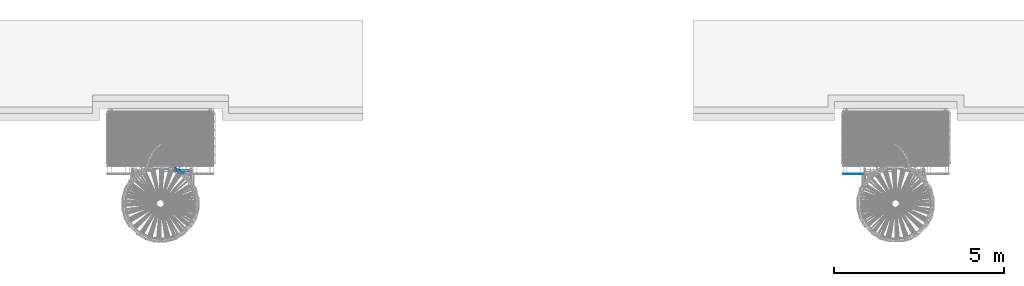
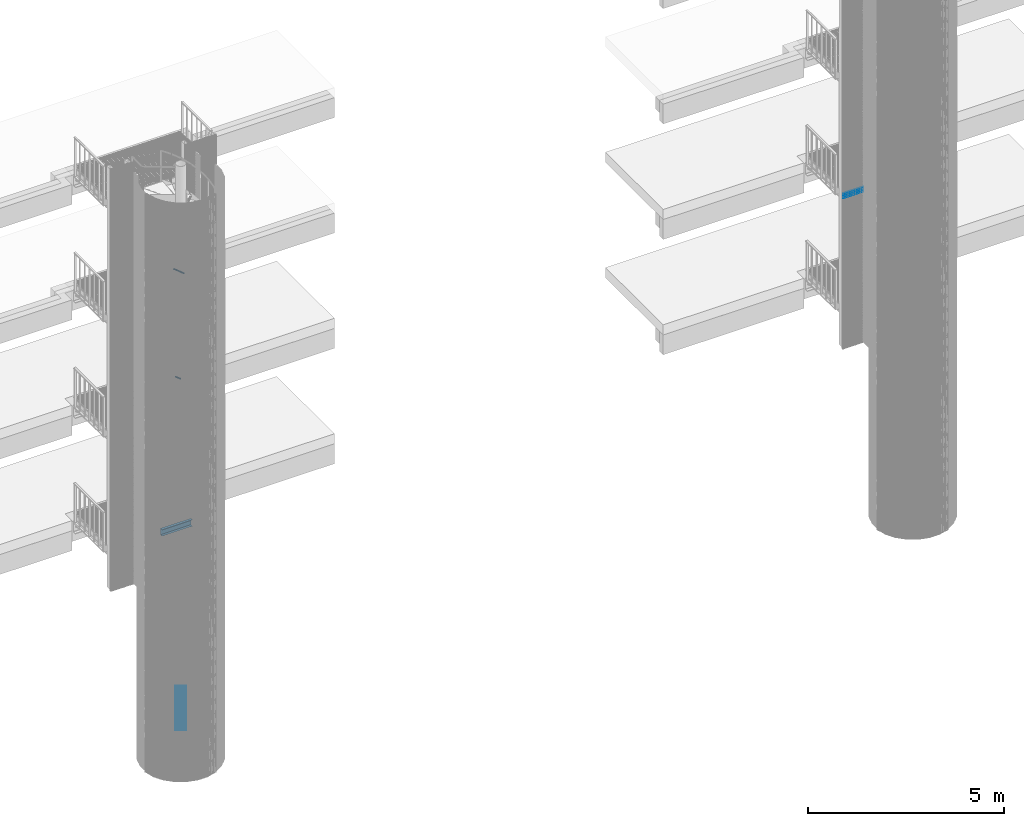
# One storey, part 334 of 1183: 52 beams, 2 members, 8 elements without a shape of their own.
"""IFC2X3 building model written with IfcOpenShell, lengths in millimetres."""

import ifcopenshell
import ifcopenshell.guid

model = None  # the IFC model being written
_history = None  # IfcOwnerHistory: only IFC2X3 demands one
_inside = {}  # id of a spatial element -> (the spatial element, [elements in it])
_under = {}  # id of a project, library or spatial element -> (it, [spatial elements below it])
_declared = {}  # id of a project -> (the project, [libraries it declares])
_typed = {}  # id of a type object -> (the type object, [elements of that type])
_made_of = {}  # id of a material, layer set ... -> (it, [elements and type objects made of it])


def new_model(schema):
    """Start an empty IFC model of exactly this schema.

    Asked for "IFC4X3", IfcOpenShell would pick the latest addendum, in which some entities
    have other attributes; the version numbers below select the first issue.
    IFC2X3 requires an IfcOwnerHistory on every rooted entity: one is made here for all.
    """
    global model, _history
    if schema == "IFC4X3":
        model = ifcopenshell.file(schema_version=(4, 3, 0, 0))
    else:
        model = ifcopenshell.file(schema=schema)
    _inside.clear()
    _under.clear()
    _declared.clear()
    _typed.clear()
    _made_of.clear()
    _history = None
    if model.schema == "IFC2X3":
        org = make("IfcOrganization", Name="unknown")
        user = make(
            "IfcPersonAndOrganization",
            ThePerson=make("IfcPerson", FamilyName="unknown"),
            TheOrganization=org,
        )
        app = make(
            "IfcApplication",
            ApplicationDeveloper=org,
            Version="unknown",
            ApplicationFullName="unknown",
            ApplicationIdentifier="unknown",
        )
        _history = make(
            "IfcOwnerHistory",
            OwningUser=user,
            OwningApplication=app,
            ChangeAction="ADDED",
            CreationDate=0,
        )
    return model


def make(cls, **values):
    """One entity of the class cls with the attributes given. An attribute that is None is left unset."""
    return model.create_entity(
        cls, **{name: value for name, value in values.items() if value is not None}
    )


def entity(cls, *values):
    """Any entity or typed value of the class cls, its attributes in the order of the schema. None: left unset."""
    e = model.create_entity(cls)
    for i, value in enumerate(values):
        if value is not None:
            e[i] = value
    return e


def rooted(cls, **values):
    """An entity with a GlobalId (a new one), such as an element, a storey or a relation."""
    return make(cls, GlobalId=ifcopenshell.guid.new(), OwnerHistory=_history, **values)


def si_unit(unit_type, name, prefix=None):
    """IfcSIUnit, for example si_unit("LENGTHUNIT", "METRE", prefix="MILLI")."""
    return make("IfcSIUnit", UnitType=unit_type, Prefix=prefix, Name=name)


def assignment(units):
    """IfcUnitAssignment: the units of a project."""
    return None if units is None else make("IfcUnitAssignment", Units=units)


def point(xyz):
    """IfcCartesianPoint."""
    return None if xyz is None else make("IfcCartesianPoint", Coordinates=xyz)


def direction(xyz):
    """IfcDirection."""
    return None if xyz is None else make("IfcDirection", DirectionRatios=xyz)


def frame(location, z_axis=None, x_axis=None):
    """IfcAxis2Placement3D, a coordinate frame: its origin and axes. An axis left out is left unset."""
    return make(
        "IfcAxis2Placement3D",
        Location=point(location),
        Axis=direction(z_axis),
        RefDirection=direction(x_axis),
    )


def frame_2d(location, x_axis=None):
    """IfcAxis2Placement2D, a coordinate frame in the plane: its origin and x axis."""
    return make(
        "IfcAxis2Placement2D", Location=point(location), RefDirection=direction(x_axis)
    )


def origin_with_axes():
    """The frame at (0, 0, 0) with the z axis (0, 0, 1) and the x axis (1, 0, 0) written out."""
    return frame((0.0, 0.0, 0.0), z_axis=(0.0, 0.0, 1.0), x_axis=(1.0, 0.0, 0.0))


def origin_2d_with_axis():
    """The frame at (0, 0) in the plane with the x axis (1, 0) written out."""
    return frame_2d((0.0, 0.0), x_axis=(1.0, 0.0))


def place(relative_to, where):
    """IfcLocalPlacement: puts the frame where relative to a parent placement (None: the world)."""
    return make(
        "IfcLocalPlacement", PlacementRelTo=relative_to, RelativePlacement=where
    )


def context(
    kind, dimensions, precision=None, world=None, true_north=None, identifier=None
):
    """IfcGeometricRepresentationContext, for example the 3D "Model" context."""
    return make(
        "IfcGeometricRepresentationContext",
        ContextIdentifier=identifier,
        ContextType=kind,
        CoordinateSpaceDimension=dimensions,
        Precision=precision,
        WorldCoordinateSystem=world,
        TrueNorth=true_north,
    )


def subcontext(parent, identifier, kind, view, scale=None):
    """IfcGeometricRepresentationSubContext, for example "Body" below "Model"."""
    return make(
        "IfcGeometricRepresentationSubContext",
        ContextIdentifier=identifier,
        ContextType=kind,
        ParentContext=parent,
        TargetScale=scale,
        TargetView=view,
    )


def project(units=None, contexts=None):
    """IfcProject with its units and contexts."""
    return rooted(
        "IfcProject",
        Name="project",
        RepresentationContexts=contexts,
        UnitsInContext=assignment(units),
    )


def spatial(cls, under=None, at=None, **own):
    """A site, building, storey or space (cls), placed at a placement, below another one or the project."""
    s = rooted(cls, ObjectPlacement=at, **own)
    if under is not None:
        _under.setdefault(under.id(), (under, []))[1].append(s)
    return s


def profile(cls, at=None, kind="AREA", **sizes):
    """A parametric profile (cls). Its sizes go by their IFC names, for example OverallWidth=200.0."""
    return make(cls, ProfileType=kind, Position=at, **sizes)


def rectangle(**sizes):
    """IfcRectangleProfileDef."""
    return profile("IfcRectangleProfileDef", **sizes)


def u_section(**sizes):
    """IfcUShapeProfileDef."""
    return profile("IfcUShapeProfileDef", **sizes)


def extrude(swept, where, along, depth):
    """IfcExtrudedAreaSolid: the profile swept, set in the frame where, extruded along a direction by depth."""
    return make(
        "IfcExtrudedAreaSolid",
        SweptArea=swept,
        Position=where,
        ExtrudedDirection=direction(along),
        Depth=depth,
    )


def shape(context_of_items, identifier, shape_type, items):
    """IfcShapeRepresentation: the items that make up one representation, for example the "Body"."""
    return make(
        "IfcShapeRepresentation",
        ContextOfItems=context_of_items,
        RepresentationIdentifier=identifier,
        RepresentationType=shape_type,
        Items=items,
    )


def material(Name=None, Category=None):
    """IfcMaterial."""
    return make("IfcMaterial", Name=Name, Category=Category)


def made_of(thing, what):
    """Note that an element or type object is made of a material, layer set ...; save() writes the relation."""
    if what is not None:
        _made_of.setdefault(what.id(), (what, []))[1].append(thing)
    return thing


def type_object(cls, material=None, **own):
    """A type object (cls), such as IfcWallType, which elements share."""
    return made_of(rooted(cls, **own), material)


def element(
    cls,
    number,
    at=None,
    inside=None,
    cuts=None,
    type_object=None,
    material=None,
    context=None,
    identifier="Body",
    shape_type=None,
    held_by="IfcProductDefinitionShape",
    body=None,
    shapes=None,
    **own,
):
    """One element of the class cls, such as IfcWall. Its Tag is "e" and its number.

    at: its placement. inside: the storey or other place that contains it. cuts: it is an
    opening in that element (IfcRelVoidsElement). A single representation is given by context,
    identifier, shape_type and body (its items); several are given by shapes. held_by: the class
    of the entity that holds the representations. save() writes the other relations.
    """
    e = rooted(cls, Tag="e%d" % number, ObjectPlacement=at, **own)
    if body is not None:
        shapes = [shape(context, identifier, shape_type, body)]
    if shapes is not None:
        e.Representation = make(held_by, Representations=shapes)
    if inside is not None:
        _inside.setdefault(inside.id(), (inside, []))[1].append(e)
    if cuts is not None:
        rooted(
            "IfcRelVoidsElement", RelatingBuildingElement=cuts, RelatedOpeningElement=e
        )
    if type_object is not None:
        _typed.setdefault(type_object.id(), (type_object, []))[1].append(e)
    return made_of(e, material)


def aggregate(whole, parts):
    """IfcRelAggregates: a whole, such as a stair, and the parts it consists of."""
    return rooted("IfcRelAggregates", RelatingObject=whole, RelatedObjects=parts)


def save(model, path):
    """Write the relations noted so far, then the file.

    IfcRelAggregates (storeys below a building ...), IfcRelContainedInSpatialStructure (elements
    in a storey), IfcRelDefinesByType, IfcRelAssociatesMaterial and IfcRelDeclares: one each for
    every whole, place, type object, material and project.
    """
    for whole, parts in _under.values():
        aggregate(whole, parts)
    for where, things in _inside.values():
        rooted(
            "IfcRelContainedInSpatialStructure",
            RelatedElements=things,
            RelatingStructure=where,
        )
    for kind, things in _typed.values():
        rooted("IfcRelDefinesByType", RelatedObjects=things, RelatingType=kind)
    for what, things in _made_of.values():
        rooted("IfcRelAssociatesMaterial", RelatedObjects=things, RelatingMaterial=what)
    for by, libraries in _declared.values():
        rooted("IfcRelDeclares", RelatingContext=by, RelatedDefinitions=libraries)
    model.write(path)


model = new_model("IFC2X3")

# Units and contexts
model_context = context("Model", 3, precision=1e-05, world=origin_with_axes())
body_context = subcontext(model_context, "Body", "Model", "MODEL_VIEW")
ifc_project = project(units=[si_unit("LENGTHUNIT", "METRE", prefix="MILLI"), si_unit("AREAUNIT", "SQUARE_METRE"), si_unit("VOLUMEUNIT", "CUBIC_METRE"), si_unit("MASSUNIT", "GRAM", prefix="KILO"), si_unit("TIMEUNIT", "SECOND"), si_unit("PLANEANGLEUNIT", "RADIAN"), si_unit("SOLIDANGLEUNIT", "STERADIAN"), si_unit("THERMODYNAMICTEMPERATUREUNIT", "DEGREE_CELSIUS"), si_unit("LUMINOUSINTENSITYUNIT", "LUMEN")], contexts=[model_context])

# Site, building, storey
site_placement = place(None, origin_with_axes())
site = spatial("IfcSite", under=ifc_project, at=site_placement, Name="Undefined", CompositionType="ELEMENT")
building_placement = place(site_placement, origin_with_axes())
building = spatial("IfcBuilding", under=site, at=building_placement, Name="Undefined", CompositionType="ELEMENT")
storey_placement = place(building_placement, origin_with_axes())
storey = spatial("IfcBuildingStorey", under=building, at=storey_placement, Name="Undefined", CompositionType="ELEMENT", Elevation=0.0)

# Assembly, beam
assembly_1_placement = place(storey_placement, origin_with_axes())
assembly_1 = element("IfcElementAssembly", 1, at=assembly_1_placement, inside=storey, AssemblyPlace="NOTDEFINED", PredefinedType="NOTDEFINED")
ifc_material_1 = material(Name="STEEL/S235JR")
beam_type_1 = type_object("IfcBeamType", Name="PL2*10", PredefinedType="NOTDEFINED")
beam_1_placement = place(assembly_1_placement, frame((20647.930410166, 876.014689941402, 10004.998), z_axis=(0.0, -1.0, 0.0), x_axis=(-1.0, 0.0, 0.0)))
beam_1 = element("IfcBeam", 2, at=beam_1_placement, type_object=beam_type_1, material=ifc_material_1, Name="ENTRETOISE", context=body_context, shape_type="SweptSolid", body=[
    extrude(rectangle(XDim=2.0, YDim=10.0, at=origin_2d_with_axis()), frame((596.0, 0.0, 0.0), z_axis=(-1.0, 0.0, 0.0), x_axis=(0.0, -1.0, 0.0)), (0.0, 0.0, 1.0), 596.0),
])
aggregate(assembly_1, [beam_1])

assembly_2_placement = place(storey_placement, origin_with_axes())
assembly_2 = element("IfcElementAssembly", 3, at=assembly_2_placement, inside=storey, AssemblyPlace="NOTDEFINED", PredefinedType="NOTDEFINED")
beam_2_placement = place(assembly_2_placement, frame((20647.930410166, 876.014689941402, 9954.998), z_axis=(0.0, -1.0, 0.0), x_axis=(-1.0, 0.0, 0.0)))
beam_2 = element("IfcBeam", 4, at=beam_2_placement, type_object=beam_type_1, material=ifc_material_1, Name="ENTRETOISE", context=body_context, shape_type="SweptSolid", body=[
    extrude(rectangle(XDim=2.0, YDim=10.0, at=origin_2d_with_axis()), frame((596.0, 0.0, 0.0), z_axis=(-1.0, 0.0, 0.0), x_axis=(0.0, -1.0, 0.0)), (0.0, 0.0, 1.0), 596.0),
])
aggregate(assembly_2, [beam_2])

assembly_3_placement = place(storey_placement, origin_with_axes())
assembly_3 = element("IfcElementAssembly", 5, at=assembly_3_placement, inside=storey, AssemblyPlace="NOTDEFINED", PredefinedType="NOTDEFINED")
beam_3_placement = place(assembly_3_placement, frame((20647.930410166, 876.014689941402, 9904.998), z_axis=(0.0, -1.0, 0.0), x_axis=(-1.0, 0.0, 0.0)))
beam_3 = element("IfcBeam", 6, at=beam_3_placement, type_object=beam_type_1, material=ifc_material_1, Name="ENTRETOISE", context=body_context, shape_type="SweptSolid", body=[
    extrude(rectangle(XDim=2.0, YDim=10.0, at=origin_2d_with_axis()), frame((596.0, 0.0, 0.0), z_axis=(-1.0, 0.0, 0.0), x_axis=(0.0, -1.0, 0.0)), (0.0, 0.0, 1.0), 596.0),
])
aggregate(assembly_3, [beam_3])

assembly_4_placement = place(storey_placement, origin_with_axes())
assembly_4 = element("IfcElementAssembly", 7, at=assembly_4_placement, inside=storey, AssemblyPlace="NOTDEFINED", PredefinedType="NOTDEFINED")
beam_4_placement = place(assembly_4_placement, frame((20647.930410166, 876.014689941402, 9854.998), z_axis=(0.0, -1.0, 0.0), x_axis=(-1.0, 0.0, 0.0)))
beam_4 = element("IfcBeam", 8, at=beam_4_placement, type_object=beam_type_1, material=ifc_material_1, Name="ENTRETOISE", context=body_context, shape_type="SweptSolid", body=[
    extrude(rectangle(XDim=2.0, YDim=10.0, at=origin_2d_with_axis()), frame((596.0, 0.0, 0.0), z_axis=(-1.0, 0.0, 0.0), x_axis=(0.0, -1.0, 0.0)), (0.0, 0.0, 1.0), 596.0),
])
aggregate(assembly_4, [beam_4])

# Assembly, beams
assembly_5_placement = place(storey_placement, origin_with_axes())
assembly_5 = element("IfcElementAssembly", 9, at=assembly_5_placement, inside=storey, Name="BORDURE", AssemblyPlace="NOTDEFINED", PredefinedType="NOTDEFINED")
beam_5_placement = place(assembly_5_placement, frame((676.248044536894, 895.303964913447, 1410.0), z_axis=(0.49999999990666, 0.866025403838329, 0.0), x_axis=(-0.866025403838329, 0.499999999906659, 0.0)))
beam_5 = element("IfcBeam", 10, at=beam_5_placement, type_object=beam_type_1, material=ifc_material_1, Name="ENTRETOISE", context=body_context, shape_type="SweptSolid", body=[
    extrude(rectangle(XDim=2.0, YDim=10.0, at=origin_2d_with_axis()), frame((275.999999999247, 9.09494701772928e-13, 1.53210777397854e-14), z_axis=(-1.0, 0.0, 0.0), x_axis=(0.0, -1.0, 0.0)), (0.0, 0.0, 1.0), 276.0),
])
beam_6_placement = place(assembly_5_placement, frame((676.248044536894, 895.303964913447, 1380.0), z_axis=(0.49999999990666, 0.866025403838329, 0.0), x_axis=(-0.866025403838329, 0.499999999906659, 0.0)))
beam_6 = element("IfcBeam", 11, at=beam_6_placement, type_object=beam_type_1, material=ifc_material_1, Name="ENTRETOISE", context=body_context, shape_type="SweptSolid", body=[
    extrude(rectangle(XDim=2.0, YDim=10.0, at=origin_2d_with_axis()), frame((275.999999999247, 9.09494701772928e-13, 1.53210777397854e-14), z_axis=(-1.0, 0.0, 0.0), x_axis=(0.0, -1.0, 0.0)), (0.0, 0.0, 1.0), 276.0),
])
beam_7_placement = place(assembly_5_placement, frame((676.248044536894, 895.303964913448, 1350.0), z_axis=(0.49999999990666, 0.866025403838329, 0.0), x_axis=(-0.866025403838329, 0.499999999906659, 0.0)))
beam_7 = element("IfcBeam", 12, at=beam_7_placement, type_object=beam_type_1, material=ifc_material_1, Name="ENTRETOISE", context=body_context, shape_type="SweptSolid", body=[
    extrude(rectangle(XDim=2.0, YDim=10.0, at=origin_2d_with_axis()), frame((275.999999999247, 9.09494701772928e-13, 1.53210777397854e-14), z_axis=(-1.0, 0.0, 0.0), x_axis=(0.0, -1.0, 0.0)), (0.0, 0.0, 1.0), 276.0),
])
beam_8_placement = place(assembly_5_placement, frame((676.248044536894, 895.303964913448, 1320.0), z_axis=(0.49999999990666, 0.866025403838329, 0.0), x_axis=(-0.866025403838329, 0.499999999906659, 0.0)))
beam_8 = element("IfcBeam", 13, at=beam_8_placement, type_object=beam_type_1, material=ifc_material_1, Name="ENTRETOISE", context=body_context, shape_type="SweptSolid", body=[
    extrude(rectangle(XDim=2.0, YDim=10.0, at=origin_2d_with_axis()), frame((275.999999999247, 9.09494701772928e-13, 1.53210777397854e-14), z_axis=(-1.0, 0.0, 0.0), x_axis=(0.0, -1.0, 0.0)), (0.0, 0.0, 1.0), 276.0),
])
beam_9_placement = place(assembly_5_placement, frame((676.248044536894, 895.303964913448, 1290.0), z_axis=(0.49999999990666, 0.866025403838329, 0.0), x_axis=(-0.866025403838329, 0.499999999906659, 0.0)))
beam_9 = element("IfcBeam", 14, at=beam_9_placement, type_object=beam_type_1, material=ifc_material_1, Name="ENTRETOISE", context=body_context, shape_type="SweptSolid", body=[
    extrude(rectangle(XDim=2.0, YDim=10.0, at=origin_2d_with_axis()), frame((275.999999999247, 9.09494701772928e-13, 1.53210777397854e-14), z_axis=(-1.0, 0.0, 0.0), x_axis=(0.0, -1.0, 0.0)), (0.0, 0.0, 1.0), 276.0),
])
beam_10_placement = place(assembly_5_placement, frame((676.248044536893, 895.303964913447, 1260.0), z_axis=(0.49999999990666, 0.866025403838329, 0.0), x_axis=(-0.866025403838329, 0.499999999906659, 0.0)))
beam_10 = element("IfcBeam", 15, at=beam_10_placement, type_object=beam_type_1, material=ifc_material_1, Name="ENTRETOISE", context=body_context, shape_type="SweptSolid", body=[
    extrude(rectangle(XDim=2.0, YDim=10.0, at=origin_2d_with_axis()), frame((275.999999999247, 9.09494701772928e-13, 1.53210777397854e-14), z_axis=(-1.0, 0.0, 0.0), x_axis=(0.0, -1.0, 0.0)), (0.0, 0.0, 1.0), 276.0),
])
beam_11_placement = place(assembly_5_placement, frame((676.248044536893, 895.303964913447, 1230.0), z_axis=(0.49999999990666, 0.866025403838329, 0.0), x_axis=(-0.866025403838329, 0.499999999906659, 0.0)))
beam_11 = element("IfcBeam", 16, at=beam_11_placement, type_object=beam_type_1, material=ifc_material_1, Name="ENTRETOISE", context=body_context, shape_type="SweptSolid", body=[
    extrude(rectangle(XDim=2.0, YDim=10.0, at=origin_2d_with_axis()), frame((275.999999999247, 9.09494701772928e-13, 1.53210777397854e-14), z_axis=(-1.0, 0.0, 0.0), x_axis=(0.0, -1.0, 0.0)), (0.0, 0.0, 1.0), 276.0),
])
beam_12_placement = place(assembly_5_placement, frame((676.248044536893, 895.303964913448, 1200.0), z_axis=(0.49999999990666, 0.866025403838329, 0.0), x_axis=(-0.866025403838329, 0.499999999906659, 0.0)))
beam_12 = element("IfcBeam", 17, at=beam_12_placement, type_object=beam_type_1, material=ifc_material_1, Name="ENTRETOISE", context=body_context, shape_type="SweptSolid", body=[
    extrude(rectangle(XDim=2.0, YDim=10.0, at=origin_2d_with_axis()), frame((275.999999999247, 9.09494701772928e-13, 1.53210777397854e-14), z_axis=(-1.0, 0.0, 0.0), x_axis=(0.0, -1.0, 0.0)), (0.0, 0.0, 1.0), 276.0),
])
beam_13_placement = place(assembly_5_placement, frame((676.248044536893, 895.303964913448, 1170.0), z_axis=(0.49999999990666, 0.866025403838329, 0.0), x_axis=(-0.866025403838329, 0.499999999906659, 0.0)))
beam_13 = element("IfcBeam", 18, at=beam_13_placement, type_object=beam_type_1, material=ifc_material_1, Name="ENTRETOISE", context=body_context, shape_type="SweptSolid", body=[
    extrude(rectangle(XDim=2.0, YDim=10.0, at=origin_2d_with_axis()), frame((275.999999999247, 9.09494701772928e-13, 1.53210777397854e-14), z_axis=(-1.0, 0.0, 0.0), x_axis=(0.0, -1.0, 0.0)), (0.0, 0.0, 1.0), 276.0),
])
beam_14_placement = place(assembly_5_placement, frame((676.248044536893, 895.303964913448, 1140.0), z_axis=(0.49999999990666, 0.866025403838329, 0.0), x_axis=(-0.866025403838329, 0.499999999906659, 0.0)))
beam_14 = element("IfcBeam", 19, at=beam_14_placement, type_object=beam_type_1, material=ifc_material_1, Name="ENTRETOISE", context=body_context, shape_type="SweptSolid", body=[
    extrude(rectangle(XDim=2.0, YDim=10.0, at=origin_2d_with_axis()), frame((275.999999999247, 9.09494701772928e-13, 1.53210777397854e-14), z_axis=(-1.0, 0.0, 0.0), x_axis=(0.0, -1.0, 0.0)), (0.0, 0.0, 1.0), 276.0),
])
beam_15_placement = place(assembly_5_placement, frame((676.248044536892, 895.303964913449, 719.999999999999), z_axis=(0.49999999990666, 0.866025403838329, 0.0), x_axis=(-0.866025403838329, 0.499999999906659, 0.0)))
beam_15 = element("IfcBeam", 20, at=beam_15_placement, type_object=beam_type_1, material=ifc_material_1, Name="ENTRETOISE", context=body_context, shape_type="SweptSolid", body=[
    extrude(rectangle(XDim=2.0, YDim=10.0, at=origin_2d_with_axis()), frame((275.999999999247, 9.09494701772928e-13, 1.53210777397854e-14), z_axis=(-1.0, 0.0, 0.0), x_axis=(0.0, -1.0, 0.0)), (0.0, 0.0, 1.0), 276.0),
])
beam_16_placement = place(assembly_5_placement, frame((676.248044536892, 895.303964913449, 689.999999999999), z_axis=(0.49999999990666, 0.866025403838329, 0.0), x_axis=(-0.866025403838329, 0.499999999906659, 0.0)))
beam_16 = element("IfcBeam", 21, at=beam_16_placement, type_object=beam_type_1, material=ifc_material_1, Name="ENTRETOISE", context=body_context, shape_type="SweptSolid", body=[
    extrude(rectangle(XDim=2.0, YDim=10.0, at=origin_2d_with_axis()), frame((275.999999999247, 9.09494701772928e-13, 1.53210777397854e-14), z_axis=(-1.0, 0.0, 0.0), x_axis=(0.0, -1.0, 0.0)), (0.0, 0.0, 1.0), 276.0),
])
beam_17_placement = place(assembly_5_placement, frame((676.248044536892, 895.303964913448, 749.999999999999), z_axis=(0.49999999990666, 0.866025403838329, 0.0), x_axis=(-0.866025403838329, 0.499999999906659, 0.0)))
beam_17 = element("IfcBeam", 22, at=beam_17_placement, type_object=beam_type_1, material=ifc_material_1, Name="ENTRETOISE", context=body_context, shape_type="SweptSolid", body=[
    extrude(rectangle(XDim=2.0, YDim=10.0, at=origin_2d_with_axis()), frame((275.999999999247, 9.09494701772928e-13, 1.53210777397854e-14), z_axis=(-1.0, 0.0, 0.0), x_axis=(0.0, -1.0, 0.0)), (0.0, 0.0, 1.0), 276.0),
])
beam_18_placement = place(assembly_5_placement, frame((676.248044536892, 895.303964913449, 659.999999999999), z_axis=(0.49999999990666, 0.866025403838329, 0.0), x_axis=(-0.866025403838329, 0.499999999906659, 0.0)))
beam_18 = element("IfcBeam", 23, at=beam_18_placement, type_object=beam_type_1, material=ifc_material_1, Name="ENTRETOISE", context=body_context, shape_type="SweptSolid", body=[
    extrude(rectangle(XDim=2.0, YDim=10.0, at=origin_2d_with_axis()), frame((275.999999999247, 9.09494701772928e-13, 1.53210777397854e-14), z_axis=(-1.0, 0.0, 0.0), x_axis=(0.0, -1.0, 0.0)), (0.0, 0.0, 1.0), 276.0),
])
beam_19_placement = place(assembly_5_placement, frame((676.248044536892, 895.303964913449, 629.999999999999), z_axis=(0.49999999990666, 0.866025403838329, 0.0), x_axis=(-0.866025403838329, 0.499999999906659, 0.0)))
beam_19 = element("IfcBeam", 24, at=beam_19_placement, type_object=beam_type_1, material=ifc_material_1, Name="ENTRETOISE", context=body_context, shape_type="SweptSolid", body=[
    extrude(rectangle(XDim=2.0, YDim=10.0, at=origin_2d_with_axis()), frame((275.999999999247, 9.09494701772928e-13, 1.53210777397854e-14), z_axis=(-1.0, 0.0, 0.0), x_axis=(0.0, -1.0, 0.0)), (0.0, 0.0, 1.0), 276.0),
])
beam_20_placement = place(assembly_5_placement, frame((676.248044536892, 895.303964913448, 779.999999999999), z_axis=(0.49999999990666, 0.866025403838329, 0.0), x_axis=(-0.866025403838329, 0.499999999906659, 0.0)))
beam_20 = element("IfcBeam", 25, at=beam_20_placement, type_object=beam_type_1, material=ifc_material_1, Name="ENTRETOISE", context=body_context, shape_type="SweptSolid", body=[
    extrude(rectangle(XDim=2.0, YDim=10.0, at=origin_2d_with_axis()), frame((275.999999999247, 9.09494701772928e-13, 1.53210777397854e-14), z_axis=(-1.0, 0.0, 0.0), x_axis=(0.0, -1.0, 0.0)), (0.0, 0.0, 1.0), 276.0),
])
beam_21_placement = place(assembly_5_placement, frame((676.248044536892, 895.303964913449, 599.999999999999), z_axis=(0.49999999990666, 0.866025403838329, 0.0), x_axis=(-0.866025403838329, 0.499999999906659, 0.0)))
beam_21 = element("IfcBeam", 26, at=beam_21_placement, type_object=beam_type_1, material=ifc_material_1, Name="ENTRETOISE", context=body_context, shape_type="SweptSolid", body=[
    extrude(rectangle(XDim=2.0, YDim=10.0, at=origin_2d_with_axis()), frame((275.999999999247, 9.09494701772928e-13, 1.53210777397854e-14), z_axis=(-1.0, 0.0, 0.0), x_axis=(0.0, -1.0, 0.0)), (0.0, 0.0, 1.0), 276.0),
])
beam_22_placement = place(assembly_5_placement, frame((676.248044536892, 895.303964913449, 809.999999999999), z_axis=(0.49999999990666, 0.866025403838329, 0.0), x_axis=(-0.866025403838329, 0.499999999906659, 0.0)))
beam_22 = element("IfcBeam", 27, at=beam_22_placement, type_object=beam_type_1, material=ifc_material_1, Name="ENTRETOISE", context=body_context, shape_type="SweptSolid", body=[
    extrude(rectangle(XDim=2.0, YDim=10.0, at=origin_2d_with_axis()), frame((275.999999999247, 9.09494701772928e-13, 1.53210777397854e-14), z_axis=(-1.0, 0.0, 0.0), x_axis=(0.0, -1.0, 0.0)), (0.0, 0.0, 1.0), 276.0),
])
beam_23_placement = place(assembly_5_placement, frame((676.248044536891, 895.303964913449, 569.999999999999), z_axis=(0.49999999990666, 0.866025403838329, 0.0), x_axis=(-0.866025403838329, 0.499999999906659, 0.0)))
beam_23 = element("IfcBeam", 28, at=beam_23_placement, type_object=beam_type_1, material=ifc_material_1, Name="ENTRETOISE", context=body_context, shape_type="SweptSolid", body=[
    extrude(rectangle(XDim=2.0, YDim=10.0, at=origin_2d_with_axis()), frame((275.999999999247, 9.09494701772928e-13, 1.53210777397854e-14), z_axis=(-1.0, 0.0, 0.0), x_axis=(0.0, -1.0, 0.0)), (0.0, 0.0, 1.0), 276.0),
])
beam_24_placement = place(assembly_5_placement, frame((676.248044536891, 895.303964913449, 539.999999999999), z_axis=(0.49999999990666, 0.866025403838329, 0.0), x_axis=(-0.866025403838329, 0.499999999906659, 0.0)))
beam_24 = element("IfcBeam", 29, at=beam_24_placement, type_object=beam_type_1, material=ifc_material_1, Name="ENTRETOISE", context=body_context, shape_type="SweptSolid", body=[
    extrude(rectangle(XDim=2.0, YDim=10.0, at=origin_2d_with_axis()), frame((275.999999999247, 9.09494701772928e-13, 1.53210777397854e-14), z_axis=(-1.0, 0.0, 0.0), x_axis=(0.0, -1.0, 0.0)), (0.0, 0.0, 1.0), 276.0),
])
beam_25_placement = place(assembly_5_placement, frame((676.248044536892, 895.303964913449, 839.999999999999), z_axis=(0.49999999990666, 0.866025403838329, 0.0), x_axis=(-0.866025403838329, 0.499999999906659, 0.0)))
beam_25 = element("IfcBeam", 30, at=beam_25_placement, type_object=beam_type_1, material=ifc_material_1, Name="ENTRETOISE", context=body_context, shape_type="SweptSolid", body=[
    extrude(rectangle(XDim=2.0, YDim=10.0, at=origin_2d_with_axis()), frame((275.999999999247, 9.09494701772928e-13, 1.53210777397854e-14), z_axis=(-1.0, 0.0, 0.0), x_axis=(0.0, -1.0, 0.0)), (0.0, 0.0, 1.0), 276.0),
])
beam_26_placement = place(assembly_5_placement, frame((676.248044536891, 895.303964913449, 509.999999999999), z_axis=(0.49999999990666, 0.866025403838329, 0.0), x_axis=(-0.866025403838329, 0.499999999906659, 0.0)))
beam_26 = element("IfcBeam", 31, at=beam_26_placement, type_object=beam_type_1, material=ifc_material_1, Name="ENTRETOISE", context=body_context, shape_type="SweptSolid", body=[
    extrude(rectangle(XDim=2.0, YDim=10.0, at=origin_2d_with_axis()), frame((275.999999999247, 9.09494701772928e-13, 1.53210777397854e-14), z_axis=(-1.0, 0.0, 0.0), x_axis=(0.0, -1.0, 0.0)), (0.0, 0.0, 1.0), 276.0),
])
beam_27_placement = place(assembly_5_placement, frame((676.248044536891, 895.303964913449, 479.999999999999), z_axis=(0.49999999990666, 0.866025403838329, 0.0), x_axis=(-0.866025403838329, 0.499999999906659, 0.0)))
beam_27 = element("IfcBeam", 32, at=beam_27_placement, type_object=beam_type_1, material=ifc_material_1, Name="ENTRETOISE", context=body_context, shape_type="SweptSolid", body=[
    extrude(rectangle(XDim=2.0, YDim=10.0, at=origin_2d_with_axis()), frame((275.999999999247, 9.09494701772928e-13, 1.53210777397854e-14), z_axis=(-1.0, 0.0, 0.0), x_axis=(0.0, -1.0, 0.0)), (0.0, 0.0, 1.0), 276.0),
])
beam_28_placement = place(assembly_5_placement, frame((676.248044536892, 895.303964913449, 869.999999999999), z_axis=(0.49999999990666, 0.866025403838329, 0.0), x_axis=(-0.866025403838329, 0.499999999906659, 0.0)))
beam_28 = element("IfcBeam", 33, at=beam_28_placement, type_object=beam_type_1, material=ifc_material_1, Name="ENTRETOISE", context=body_context, shape_type="SweptSolid", body=[
    extrude(rectangle(XDim=2.0, YDim=10.0, at=origin_2d_with_axis()), frame((275.999999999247, 9.09494701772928e-13, 1.53210777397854e-14), z_axis=(-1.0, 0.0, 0.0), x_axis=(0.0, -1.0, 0.0)), (0.0, 0.0, 1.0), 276.0),
])
beam_29_placement = place(assembly_5_placement, frame((676.248044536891, 895.303964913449, 449.999999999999), z_axis=(0.49999999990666, 0.866025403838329, 0.0), x_axis=(-0.866025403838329, 0.499999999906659, 0.0)))
beam_29 = element("IfcBeam", 34, at=beam_29_placement, type_object=beam_type_1, material=ifc_material_1, Name="ENTRETOISE", context=body_context, shape_type="SweptSolid", body=[
    extrude(rectangle(XDim=2.0, YDim=10.0, at=origin_2d_with_axis()), frame((275.999999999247, 9.09494701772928e-13, 1.53210777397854e-14), z_axis=(-1.0, 0.0, 0.0), x_axis=(0.0, -1.0, 0.0)), (0.0, 0.0, 1.0), 276.0),
])
beam_30_placement = place(assembly_5_placement, frame((676.248044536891, 895.303964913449, 419.999999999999), z_axis=(0.49999999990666, 0.866025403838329, 0.0), x_axis=(-0.866025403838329, 0.499999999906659, 0.0)))
beam_30 = element("IfcBeam", 35, at=beam_30_placement, type_object=beam_type_1, material=ifc_material_1, Name="ENTRETOISE", context=body_context, shape_type="SweptSolid", body=[
    extrude(rectangle(XDim=2.0, YDim=10.0, at=origin_2d_with_axis()), frame((275.999999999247, 9.09494701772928e-13, 1.53210777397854e-14), z_axis=(-1.0, 0.0, 0.0), x_axis=(0.0, -1.0, 0.0)), (0.0, 0.0, 1.0), 276.0),
])
beam_31_placement = place(assembly_5_placement, frame((676.248044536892, 895.303964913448, 899.999999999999), z_axis=(0.49999999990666, 0.866025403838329, 0.0), x_axis=(-0.866025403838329, 0.499999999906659, 0.0)))
beam_31 = element("IfcBeam", 36, at=beam_31_placement, type_object=beam_type_1, material=ifc_material_1, Name="ENTRETOISE", context=body_context, shape_type="SweptSolid", body=[
    extrude(rectangle(XDim=2.0, YDim=10.0, at=origin_2d_with_axis()), frame((275.999999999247, 9.09494701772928e-13, 1.53210777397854e-14), z_axis=(-1.0, 0.0, 0.0), x_axis=(0.0, -1.0, 0.0)), (0.0, 0.0, 1.0), 276.0),
])
beam_32_placement = place(assembly_5_placement, frame((676.248044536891, 895.30396491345, 389.999999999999), z_axis=(0.49999999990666, 0.866025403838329, 0.0), x_axis=(-0.866025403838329, 0.499999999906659, 0.0)))
beam_32 = element("IfcBeam", 37, at=beam_32_placement, type_object=beam_type_1, material=ifc_material_1, Name="ENTRETOISE", context=body_context, shape_type="SweptSolid", body=[
    extrude(rectangle(XDim=2.0, YDim=10.0, at=origin_2d_with_axis()), frame((275.999999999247, 9.09494701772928e-13, 1.53210777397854e-14), z_axis=(-1.0, 0.0, 0.0), x_axis=(0.0, -1.0, 0.0)), (0.0, 0.0, 1.0), 276.0),
])
beam_33_placement = place(assembly_5_placement, frame((676.248044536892, 895.303964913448, 929.999999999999), z_axis=(0.49999999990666, 0.866025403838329, 0.0), x_axis=(-0.866025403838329, 0.499999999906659, 0.0)))
beam_33 = element("IfcBeam", 38, at=beam_33_placement, type_object=beam_type_1, material=ifc_material_1, Name="ENTRETOISE", context=body_context, shape_type="SweptSolid", body=[
    extrude(rectangle(XDim=2.0, YDim=10.0, at=origin_2d_with_axis()), frame((275.999999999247, 9.09494701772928e-13, 1.53210777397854e-14), z_axis=(-1.0, 0.0, 0.0), x_axis=(0.0, -1.0, 0.0)), (0.0, 0.0, 1.0), 276.0),
])
beam_34_placement = place(assembly_5_placement, frame((676.248044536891, 895.30396491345, 359.999999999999), z_axis=(0.49999999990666, 0.866025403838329, 0.0), x_axis=(-0.866025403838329, 0.499999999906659, 0.0)))
beam_34 = element("IfcBeam", 39, at=beam_34_placement, type_object=beam_type_1, material=ifc_material_1, Name="ENTRETOISE", context=body_context, shape_type="SweptSolid", body=[
    extrude(rectangle(XDim=2.0, YDim=10.0, at=origin_2d_with_axis()), frame((275.999999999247, 9.09494701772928e-13, 1.53210777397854e-14), z_axis=(-1.0, 0.0, 0.0), x_axis=(0.0, -1.0, 0.0)), (0.0, 0.0, 1.0), 276.0),
])
beam_35_placement = place(assembly_5_placement, frame((676.248044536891, 895.303964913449, 329.999999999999), z_axis=(0.49999999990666, 0.866025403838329, 0.0), x_axis=(-0.866025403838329, 0.499999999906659, 0.0)))
beam_35 = element("IfcBeam", 40, at=beam_35_placement, type_object=beam_type_1, material=ifc_material_1, Name="ENTRETOISE", context=body_context, shape_type="SweptSolid", body=[
    extrude(rectangle(XDim=2.0, YDim=10.0, at=origin_2d_with_axis()), frame((275.999999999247, 9.09494701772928e-13, 1.53210777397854e-14), z_axis=(-1.0, 0.0, 0.0), x_axis=(0.0, -1.0, 0.0)), (0.0, 0.0, 1.0), 276.0),
])
beam_36_placement = place(assembly_5_placement, frame((676.248044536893, 895.303964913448, 959.999999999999), z_axis=(0.49999999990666, 0.866025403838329, 0.0), x_axis=(-0.866025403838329, 0.499999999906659, 0.0)))
beam_36 = element("IfcBeam", 41, at=beam_36_placement, type_object=beam_type_1, material=ifc_material_1, Name="ENTRETOISE", context=body_context, shape_type="SweptSolid", body=[
    extrude(rectangle(XDim=2.0, YDim=10.0, at=origin_2d_with_axis()), frame((275.999999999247, 9.09494701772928e-13, 1.53210777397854e-14), z_axis=(-1.0, 0.0, 0.0), x_axis=(0.0, -1.0, 0.0)), (0.0, 0.0, 1.0), 276.0),
])
beam_37_placement = place(assembly_5_placement, frame((676.248044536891, 895.303964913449, 299.999999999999), z_axis=(0.49999999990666, 0.866025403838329, 0.0), x_axis=(-0.866025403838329, 0.499999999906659, 0.0)))
beam_37 = element("IfcBeam", 42, at=beam_37_placement, type_object=beam_type_1, material=ifc_material_1, Name="ENTRETOISE", context=body_context, shape_type="SweptSolid", body=[
    extrude(rectangle(XDim=2.0, YDim=10.0, at=origin_2d_with_axis()), frame((275.999999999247, 9.09494701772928e-13, 1.53210777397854e-14), z_axis=(-1.0, 0.0, 0.0), x_axis=(0.0, -1.0, 0.0)), (0.0, 0.0, 1.0), 276.0),
])
beam_38_placement = place(assembly_5_placement, frame((676.24804453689, 895.303964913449, 269.999999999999), z_axis=(0.49999999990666, 0.866025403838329, 0.0), x_axis=(-0.866025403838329, 0.499999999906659, 0.0)))
beam_38 = element("IfcBeam", 43, at=beam_38_placement, type_object=beam_type_1, material=ifc_material_1, Name="ENTRETOISE", context=body_context, shape_type="SweptSolid", body=[
    extrude(rectangle(XDim=2.0, YDim=10.0, at=origin_2d_with_axis()), frame((275.999999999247, 9.09494701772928e-13, 1.53210777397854e-14), z_axis=(-1.0, 0.0, 0.0), x_axis=(0.0, -1.0, 0.0)), (0.0, 0.0, 1.0), 276.0),
])
beam_39_placement = place(assembly_5_placement, frame((676.248044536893, 895.303964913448, 989.999999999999), z_axis=(0.49999999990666, 0.866025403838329, 0.0), x_axis=(-0.866025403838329, 0.499999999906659, 0.0)))
beam_39 = element("IfcBeam", 44, at=beam_39_placement, type_object=beam_type_1, material=ifc_material_1, Name="ENTRETOISE", context=body_context, shape_type="SweptSolid", body=[
    extrude(rectangle(XDim=2.0, YDim=10.0, at=origin_2d_with_axis()), frame((275.999999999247, 9.09494701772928e-13, 1.53210777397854e-14), z_axis=(-1.0, 0.0, 0.0), x_axis=(0.0, -1.0, 0.0)), (0.0, 0.0, 1.0), 276.0),
])
beam_40_placement = place(assembly_5_placement, frame((676.24804453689, 895.30396491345, 239.999999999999), z_axis=(0.49999999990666, 0.866025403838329, 0.0), x_axis=(-0.866025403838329, 0.499999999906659, 0.0)))
beam_40 = element("IfcBeam", 45, at=beam_40_placement, type_object=beam_type_1, material=ifc_material_1, Name="ENTRETOISE", context=body_context, shape_type="SweptSolid", body=[
    extrude(rectangle(XDim=2.0, YDim=10.0, at=origin_2d_with_axis()), frame((275.999999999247, 9.09494701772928e-13, 1.53210777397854e-14), z_axis=(-1.0, 0.0, 0.0), x_axis=(0.0, -1.0, 0.0)), (0.0, 0.0, 1.0), 276.0),
])
beam_41_placement = place(assembly_5_placement, frame((676.248044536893, 895.303964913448, 1020.0), z_axis=(0.49999999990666, 0.866025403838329, 0.0), x_axis=(-0.866025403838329, 0.499999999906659, 0.0)))
beam_41 = element("IfcBeam", 46, at=beam_41_placement, type_object=beam_type_1, material=ifc_material_1, Name="ENTRETOISE", context=body_context, shape_type="SweptSolid", body=[
    extrude(rectangle(XDim=2.0, YDim=10.0, at=origin_2d_with_axis()), frame((275.999999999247, 9.09494701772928e-13, 1.53210777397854e-14), z_axis=(-1.0, 0.0, 0.0), x_axis=(0.0, -1.0, 0.0)), (0.0, 0.0, 1.0), 276.0),
])
beam_42_placement = place(assembly_5_placement, frame((676.24804453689, 895.30396491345, 209.999999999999), z_axis=(0.49999999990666, 0.866025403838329, 0.0), x_axis=(-0.866025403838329, 0.499999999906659, 0.0)))
beam_42 = element("IfcBeam", 47, at=beam_42_placement, type_object=beam_type_1, material=ifc_material_1, Name="ENTRETOISE", context=body_context, shape_type="SweptSolid", body=[
    extrude(rectangle(XDim=2.0, YDim=10.0, at=origin_2d_with_axis()), frame((275.999999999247, 9.09494701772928e-13, 1.53210777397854e-14), z_axis=(-1.0, 0.0, 0.0), x_axis=(0.0, -1.0, 0.0)), (0.0, 0.0, 1.0), 276.0),
])
beam_43_placement = place(assembly_5_placement, frame((676.24804453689, 895.30396491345, 179.999999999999), z_axis=(0.49999999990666, 0.866025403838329, 0.0), x_axis=(-0.866025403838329, 0.499999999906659, 0.0)))
beam_43 = element("IfcBeam", 48, at=beam_43_placement, type_object=beam_type_1, material=ifc_material_1, Name="ENTRETOISE", context=body_context, shape_type="SweptSolid", body=[
    extrude(rectangle(XDim=2.0, YDim=10.0, at=origin_2d_with_axis()), frame((275.999999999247, 9.09494701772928e-13, 1.53210777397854e-14), z_axis=(-1.0, 0.0, 0.0), x_axis=(0.0, -1.0, 0.0)), (0.0, 0.0, 1.0), 276.0),
])
beam_44_placement = place(assembly_5_placement, frame((676.248044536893, 895.303964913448, 1050.0), z_axis=(0.49999999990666, 0.866025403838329, 0.0), x_axis=(-0.866025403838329, 0.499999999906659, 0.0)))
beam_44 = element("IfcBeam", 49, at=beam_44_placement, type_object=beam_type_1, material=ifc_material_1, Name="ENTRETOISE", context=body_context, shape_type="SweptSolid", body=[
    extrude(rectangle(XDim=2.0, YDim=10.0, at=origin_2d_with_axis()), frame((275.999999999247, 9.09494701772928e-13, 1.53210777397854e-14), z_axis=(-1.0, 0.0, 0.0), x_axis=(0.0, -1.0, 0.0)), (0.0, 0.0, 1.0), 276.0),
])
beam_45_placement = place(assembly_5_placement, frame((676.24804453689, 895.30396491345, 149.999999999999), z_axis=(0.49999999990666, 0.866025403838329, 0.0), x_axis=(-0.866025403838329, 0.499999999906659, 0.0)))
beam_45 = element("IfcBeam", 50, at=beam_45_placement, type_object=beam_type_1, material=ifc_material_1, Name="ENTRETOISE", context=body_context, shape_type="SweptSolid", body=[
    extrude(rectangle(XDim=2.0, YDim=10.0, at=origin_2d_with_axis()), frame((275.999999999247, 9.09494701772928e-13, 1.53210777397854e-14), z_axis=(-1.0, 0.0, 0.0), x_axis=(0.0, -1.0, 0.0)), (0.0, 0.0, 1.0), 276.0),
])
beam_46_placement = place(assembly_5_placement, frame((676.24804453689, 895.30396491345, 119.999999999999), z_axis=(0.49999999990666, 0.866025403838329, 0.0), x_axis=(-0.866025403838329, 0.499999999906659, 0.0)))
beam_46 = element("IfcBeam", 51, at=beam_46_placement, type_object=beam_type_1, material=ifc_material_1, Name="ENTRETOISE", context=body_context, shape_type="SweptSolid", body=[
    extrude(rectangle(XDim=2.0, YDim=10.0, at=origin_2d_with_axis()), frame((275.999999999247, 9.09494701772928e-13, 1.53210777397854e-14), z_axis=(-1.0, 0.0, 0.0), x_axis=(0.0, -1.0, 0.0)), (0.0, 0.0, 1.0), 276.0),
])
beam_47_placement = place(assembly_5_placement, frame((676.248044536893, 895.303964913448, 1080.0), z_axis=(0.49999999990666, 0.866025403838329, 0.0), x_axis=(-0.866025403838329, 0.499999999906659, 0.0)))
beam_47 = element("IfcBeam", 52, at=beam_47_placement, type_object=beam_type_1, material=ifc_material_1, Name="ENTRETOISE", context=body_context, shape_type="SweptSolid", body=[
    extrude(rectangle(XDim=2.0, YDim=10.0, at=origin_2d_with_axis()), frame((275.999999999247, 9.09494701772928e-13, 1.53210777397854e-14), z_axis=(-1.0, 0.0, 0.0), x_axis=(0.0, -1.0, 0.0)), (0.0, 0.0, 1.0), 276.0),
])
beam_48_placement = place(assembly_5_placement, frame((676.24804453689, 895.30396491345, 89.9999999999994), z_axis=(0.49999999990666, 0.866025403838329, 0.0), x_axis=(-0.866025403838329, 0.499999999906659, 0.0)))
beam_48 = element("IfcBeam", 53, at=beam_48_placement, type_object=beam_type_1, material=ifc_material_1, Name="ENTRETOISE", context=body_context, shape_type="SweptSolid", body=[
    extrude(rectangle(XDim=2.0, YDim=10.0, at=origin_2d_with_axis()), frame((275.999999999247, 9.09494701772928e-13, 1.53210777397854e-14), z_axis=(-1.0, 0.0, 0.0), x_axis=(0.0, -1.0, 0.0)), (0.0, 0.0, 1.0), 276.0),
])
beam_49_placement = place(assembly_5_placement, frame((676.24804453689, 895.30396491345, 59.9999999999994), z_axis=(0.49999999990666, 0.866025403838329, 0.0), x_axis=(-0.866025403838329, 0.499999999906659, 0.0)))
beam_49 = element("IfcBeam", 54, at=beam_49_placement, type_object=beam_type_1, material=ifc_material_1, Name="ENTRETOISE", context=body_context, shape_type="SweptSolid", body=[
    extrude(rectangle(XDim=2.0, YDim=10.0, at=origin_2d_with_axis()), frame((275.999999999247, 9.09494701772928e-13, 1.53210777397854e-14), z_axis=(-1.0, 0.0, 0.0), x_axis=(0.0, -1.0, 0.0)), (0.0, 0.0, 1.0), 276.0),
])
beam_50_placement = place(assembly_5_placement, frame((676.248044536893, 895.303964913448, 1110.0), z_axis=(0.49999999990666, 0.866025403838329, 0.0), x_axis=(-0.866025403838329, 0.499999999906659, 0.0)))
beam_50 = element("IfcBeam", 55, at=beam_50_placement, type_object=beam_type_1, material=ifc_material_1, Name="ENTRETOISE", context=body_context, shape_type="SweptSolid", body=[
    extrude(rectangle(XDim=2.0, YDim=10.0, at=origin_2d_with_axis()), frame((275.999999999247, 9.09494701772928e-13, 1.53210777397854e-14), z_axis=(-1.0, 0.0, 0.0), x_axis=(0.0, -1.0, 0.0)), (0.0, 0.0, 1.0), 276.0),
])
beam_51_placement = place(assembly_5_placement, frame((676.248044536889, 895.30396491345, 29.9999999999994), z_axis=(0.49999999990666, 0.866025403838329, 0.0), x_axis=(-0.866025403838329, 0.499999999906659, 0.0)))
beam_51 = element("IfcBeam", 56, at=beam_51_placement, type_object=beam_type_1, material=ifc_material_1, Name="ENTRETOISE", context=body_context, shape_type="SweptSolid", body=[
    extrude(rectangle(XDim=2.0, YDim=10.0, at=origin_2d_with_axis()), frame((275.999999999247, 9.09494701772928e-13, 1.53210777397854e-14), z_axis=(-1.0, 0.0, 0.0), x_axis=(0.0, -1.0, 0.0)), (0.0, 0.0, 1.0), 276.0),
])
aggregate(assembly_5, [beam_5, beam_6, beam_7, beam_8, beam_9, beam_10, beam_11, beam_12, beam_13, beam_14, beam_15, beam_16, beam_17, beam_18, beam_19, beam_20, beam_21, beam_22, beam_23, beam_24, beam_25, beam_26, beam_27, beam_28, beam_29, beam_30, beam_31, beam_32, beam_33, beam_34, beam_35, beam_36, beam_37, beam_38, beam_39, beam_40, beam_41, beam_42, beam_43, beam_44, beam_45, beam_46, beam_47, beam_48, beam_49, beam_50, beam_51])

# Assembly, member
assembly_6_placement = place(storey_placement, origin_with_axes())
assembly_6 = element("IfcElementAssembly", 57, at=assembly_6_placement, inside=storey, Name="MONTANT", AssemblyPlace="NOTDEFINED", PredefinedType="NOTDEFINED")
member_type = type_object("IfcMemberType", Name="TUBE-42.4*3.2", PredefinedType="NOTDEFINED")
member_1_placement = place(assembly_6_placement, frame((527.000000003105, 912.790775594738, 11033.4399999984), z_axis=(0.444667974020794, 0.895695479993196, -1.19143805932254e-11), x_axis=(-0.784720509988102, 0.389574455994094, 0.482125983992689)))
member_1 = element("IfcMember", 58, at=member_1_placement, type_object=member_type, material=ifc_material_1, Name="MAIN_COURANTE", context=body_context, shape_type="SweptSolid", body=[
    entity("IfcRevolvedAreaSolid", entity("IfcCircleHollowProfileDef", "AREA", None, entity("IfcAxis2Placement2D", entity("IfcCartesianPoint", [0.0, 0.0]), entity("IfcDirection", [1.0, 0.0])), 21.200000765, 3.200000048), entity("IfcAxis2Placement3D", entity("IfcCartesianPoint", [158.775926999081, 2.8421709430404e-14, 1.62688591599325e-15]), entity("IfcDirection", [-0.999290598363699, 1.69106204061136e-18, 0.0376603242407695]), entity("IfcDirection", [0.0, -1.0, 0.0])), entity("IfcAxis1Placement", entity("IfcCartesianPoint", [0.0, -2108.0, 0.0]), entity("IfcDirection", [1.0, 0.0, 0.0])), 0.0753384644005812),
])
aggregate(assembly_6, [member_1])

assembly_7_placement = place(storey_placement, origin_with_axes())
assembly_7 = element("IfcElementAssembly", 59, at=assembly_7_placement, inside=storey, Name="MONTANT", AssemblyPlace="NOTDEFINED", PredefinedType="NOTDEFINED")
member_2_placement = place(assembly_7_placement, frame((604.549563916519, 863.38625468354, 14320.3999999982), z_axis=(0.461748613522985, 0.887010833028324, -2.56448402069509e-10), x_axis=(-0.770994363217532, 0.40135426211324, 0.494451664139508)))
member_2 = element("IfcMember", 60, at=member_2_placement, type_object=member_type, material=ifc_material_1, Name="MAIN_COURANTE", context=body_context, shape_type="SweptSolid", body=[
    entity("IfcRevolvedAreaSolid", entity("IfcCircleHollowProfileDef", "AREA", None, entity("IfcAxis2Placement2D", entity("IfcCartesianPoint", [0.0, 0.0]), entity("IfcDirection", [1.0, 0.0])), 21.200000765, 3.200000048), entity("IfcAxis2Placement3D", entity("IfcCartesianPoint", [316.552681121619, 9.09494701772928e-13, -1.82569453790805e-12]), entity("IfcDirection", [-0.997177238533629, 2.1263748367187e-18, 0.0750836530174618]), entity("IfcDirection", [0.0, -1.0, 0.0])), entity("IfcAxis1Placement", entity("IfcCartesianPoint", [0.0, -2108.0, 0.0]), entity("IfcDirection", [1.0, 0.0, 0.0])), 0.150308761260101),
])
aggregate(assembly_7, [member_2])

# Assembly, beam
assembly_8_placement = place(storey_placement, origin_with_axes())
assembly_8 = element("IfcElementAssembly", 61, at=assembly_8_placement, inside=storey, Name="TRAVERSE", AssemblyPlace="NOTDEFINED", PredefinedType="NOTDEFINED")
ifc_material_2 = material(Name="STEEL/S275JR")
beam_type_2 = type_object("IfcBeamType", Name="UPF-200*80*4", PredefinedType="NOTDEFINED")
beam_52_placement = place(assembly_8_placement, frame((891.963534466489, 990.016164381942, 6385.8400016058), z_axis=(-0.000179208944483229, -1.40999956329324e-07, -0.999999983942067), x_axis=(-0.999999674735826, -0.000786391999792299, 0.000179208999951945)))
beam_52 = element("IfcBeam", 62, at=beam_52_placement, type_object=beam_type_2, material=ifc_material_2, Name="TRAVERSE", context=body_context, shape_type="SweptSolid", body=[
    extrude(u_section(Depth=200.0, FlangeWidth=80.0, WebThickness=4.0, FlangeThickness=4.0, at=origin_2d_with_axis()), frame((892.812628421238, 1.78184733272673e-16, 3.63797880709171e-12), z_axis=(-1.0, 0.0, 0.0), x_axis=(0.0, -1.0, 0.0)), (0.0, 0.0, 1.0), 892.81),
])
aggregate(assembly_8, [beam_52])

save(model, "model.ifc")
